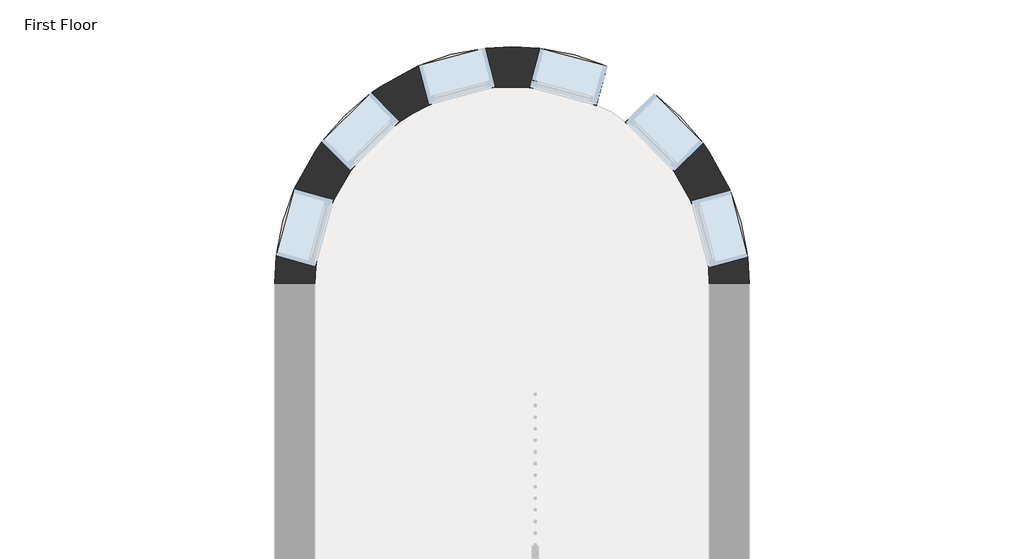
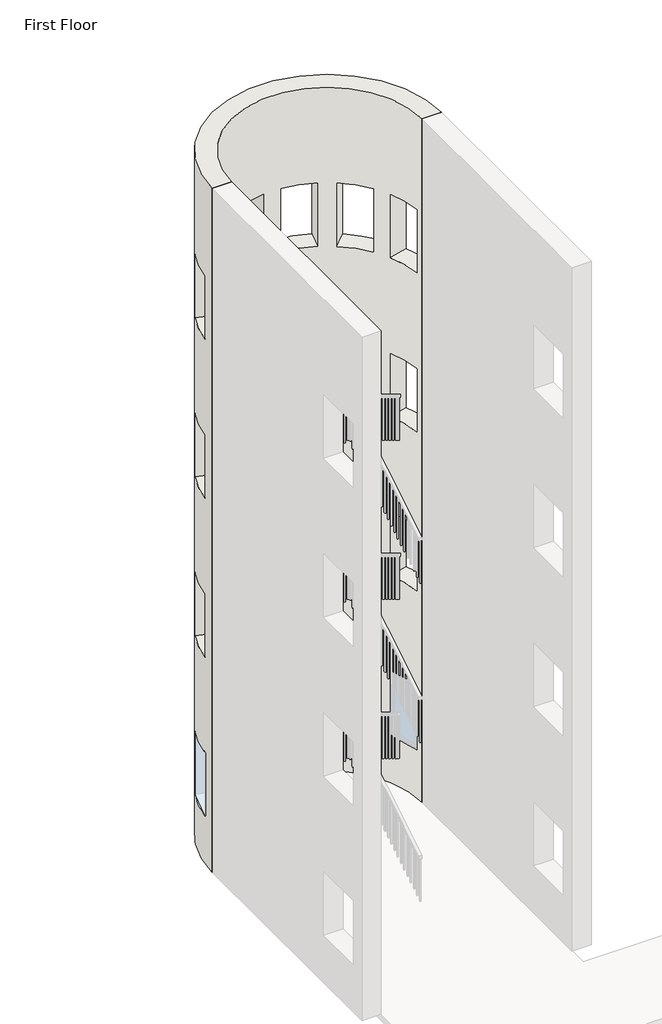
# One storey, part 2 of 5: 1 wall.
"""IFC4 building model written with IfcOpenShell, lengths in millimetres."""

from ifc_helpers import new_model, si_unit, frame, origin, place, context, project, spatial, polyline, circle_curve, element, save
from ifc_brep_helpers import plane_surface, cylinder_surface, revolved_surface, advanced_brep

model = new_model("IFC4")

# Units and contexts
model_context = context("Model", 3, world=origin())
ifc_project = project(units=[si_unit("LENGTHUNIT", "METRE", prefix="MILLI")], contexts=[model_context])

# Site, building, storey
site = spatial("IfcSite", under=ifc_project)
building = spatial("IfcBuilding", under=site)
storey = spatial("IfcBuildingStorey", under=building, Name="First Floor", Elevation=0.0)

# Wall
placement = place(None, origin())
element("IfcWall", 1, ObjectType="Exterior - Brick on Mtl. Stud", at=placement, inside=storey, context=model_context, shape_type="AdvancedBrep", body=[
    advanced_brep(
    [(-4164.4024687, 9592.7758812, 13106.4), (-8326.8274687, 9592.7758812, 13106.4), (-7974.4024687, 9592.7758812, 13106.4), (-4516.8274687, 9592.7758812, 13106.4), (-8326.8274687, 9592.7758812, 0.0), (-4164.4024687, 9592.7758812, 0.0), (-4516.8274687, 9592.7758812, 0.0), (-7974.4024687, 9592.7758812, 0.0), (-8312.3878938, 9837.5107303, 914.4), (-8152.818084, 10425.8555575, 914.4), (-8152.818084, 10425.8555575, 2133.6), (-8312.3878938, 9837.5107303, 2133.6), (-7913.1254012, 10838.1089402, 2133.6), (-7913.1254012, 10838.1089402, 914.4), (-7480.7614786, 11267.8456019, 914.4), (-7480.7614786, 11267.8456019, 2133.6), (-7067.0548348, 11505.0211627, 2133.6), (-7067.0548348, 11505.0211627, 914.4), (-6477.7483633, 11661.0020674, 914.4), (-6477.7483633, 11661.0020674, 2133.6), (-6000.8801197, 11659.5488063, 2133.6), (-6000.8801197, 11659.5488063, 914.4), (-5412.5352924, 11499.9789965, 914.4), (-5412.5352924, 11499.9789965, 2133.6), (-5000.2819097, 11260.2863136, 2133.6), (-5000.2819097, 11260.2863136, 914.4), (-4570.545248, 10827.922391, 914.4), (-4570.545248, 10827.922391, 2133.6), (-4333.3696872, 10414.2157472, 2133.6), (-4333.3696872, 10414.2157472, 914.4), (-4177.3887825, 9824.9092757, 914.4), (-4177.3887825, 9824.9092757, 2133.6), (-8312.3878938, 9837.5107303, 11277.6), (-8312.3878938, 9837.5107303, 10058.4), (-8152.818084, 10425.8555575, 10058.4), (-8152.818084, 10425.8555575, 11277.6), (-7913.1254012, 10838.1089402, 11277.6), (-7913.1254012, 10838.1089402, 10058.4), (-7480.7614786, 11267.8456019, 10058.4), (-7480.7614786, 11267.8456019, 11277.6), (-7067.0548348, 11505.0211627, 11277.6), (-7067.0548348, 11505.0211627, 10058.4), (-6477.7483633, 11661.0020674, 10058.4), (-6477.7483633, 11661.0020674, 11277.6), (-6000.8801197, 11659.5488063, 11277.6), (-6000.8801197, 11659.5488063, 10058.4), (-5412.5352924, 11499.9789965, 10058.4), (-5412.5352924, 11499.9789965, 11277.6), (-5000.2819097, 11260.2863136, 11277.6), (-5000.2819097, 11260.2863136, 10058.4), (-4570.545248, 10827.922391, 10058.4), (-4570.545248, 10827.922391, 11277.6), (-4333.3696872, 10414.2157472, 11277.6), (-4333.3696872, 10414.2157472, 10058.4), (-4177.3887825, 9824.9092757, 10058.4), (-4177.3887825, 9824.9092757, 11277.6), (-8312.3878938, 9837.5107303, 5181.6), (-8312.3878938, 9837.5107303, 3962.4), (-8152.818084, 10425.8555575, 3962.4), (-8152.818084, 10425.8555575, 5181.6), (-7913.1254012, 10838.1089402, 5181.6), (-7913.1254012, 10838.1089402, 3962.4), (-7480.7614786, 11267.8456019, 3962.4), (-7480.7614786, 11267.8456019, 5181.6), (-7067.0548348, 11505.0211627, 5181.6), (-7067.0548348, 11505.0211627, 3962.4), (-6477.7483633, 11661.0020674, 3962.4), (-6477.7483633, 11661.0020674, 5181.6), (-6000.8801197, 11659.5488063, 5181.6), (-6000.8801197, 11659.5488063, 3962.4), (-5412.5352924, 11499.9789965, 3962.4), (-5412.5352924, 11499.9789965, 5181.6), (-5000.2819097, 11260.2863136, 5181.6), (-5000.2819097, 11260.2863136, 3962.4), (-4570.545248, 10827.922391, 3962.4), (-4570.545248, 10827.922391, 5181.6), (-4333.3696872, 10414.2157472, 5181.6), (-4333.3696872, 10414.2157472, 3962.4), (-4177.3887825, 9824.9092757, 3962.4), (-4177.3887825, 9824.9092757, 5181.6), (-8312.3878938, 9837.5107303, 8229.6), (-8312.3878938, 9837.5107303, 7010.4), (-8152.818084, 10425.8555575, 7010.4), (-8152.818084, 10425.8555575, 8229.6), (-7913.1254012, 10838.1089402, 8229.6), (-7913.1254012, 10838.1089402, 7010.4), (-7480.7614786, 11267.8456019, 7010.4), (-7480.7614786, 11267.8456019, 8229.6), (-7067.0548348, 11505.0211627, 8229.6), (-7067.0548348, 11505.0211627, 7010.4), (-6477.7483633, 11661.0020674, 7010.4), (-6477.7483633, 11661.0020674, 8229.6), (-6000.8801197, 11659.5488063, 8229.6), (-6000.8801197, 11659.5488063, 7010.4), (-5412.5352924, 11499.9789965, 7010.4), (-5412.5352924, 11499.9789965, 8229.6), (-5000.2819097, 11260.2863136, 8229.6), (-5000.2819097, 11260.2863136, 7010.4), (-4570.545248, 10827.922391, 7010.4), (-4570.545248, 10827.922391, 8229.6), (-4333.3696872, 10414.2157472, 8229.6), (-4333.3696872, 10414.2157472, 7010.4), (-4177.3887825, 9824.9092757, 7010.4), (-4177.3887825, 9824.9092757, 8229.6), (-7808.2019473, 10332.3893982, 914.4), (-7967.7717571, 9744.0445709, 914.4), (-7967.7717571, 9744.0445709, 2133.6), (-7808.2019473, 10332.3893982, 2133.6), (-7661.4121519, 10584.8568034, 914.4), (-7661.4121519, 10584.8568034, 2133.6), (-7229.0482293, 11014.5934652, 2133.6), (-7229.0482293, 11014.5934652, 914.4), (-6975.6908348, 11159.8417541, 2133.6), (-6386.3843633, 11315.8226588, 2133.6), (-6386.3843633, 11315.8226588, 914.4), (-6975.6908348, 11159.8417541, 914.4), (-6094.346279, 11314.9326695, 2133.6), (-5506.0014517, 11155.3628598, 2133.6), (-5506.0014517, 11155.3628598, 914.4), (-6094.346279, 11314.9326695, 914.4), (-5253.5340465, 11008.5730643, 2133.6), (-4823.7973847, 10576.2091417, 2133.6), (-4823.7973847, 10576.2091417, 914.4), (-5253.5340465, 11008.5730643, 914.4), (-4678.5490959, 10322.8517473, 2133.6), (-4522.5681912, 9733.5452757, 2133.6), (-4522.5681912, 9733.5452757, 914.4), (-4678.5490959, 10322.8517473, 914.4), (-7967.7717571, 9744.0445709, 11277.6), (-7808.2019473, 10332.3893982, 11277.6), (-7808.2019473, 10332.3893982, 10058.4), (-7967.7717571, 9744.0445709, 10058.4), (-7661.4121519, 10584.8568034, 11277.6), (-7229.0482293, 11014.5934652, 11277.6), (-7229.0482293, 11014.5934652, 10058.4), (-7661.4121519, 10584.8568034, 10058.4), (-6975.6908348, 11159.8417541, 11277.6), (-6386.3843633, 11315.8226588, 11277.6), (-6386.3843633, 11315.8226588, 10058.4), (-6975.6908348, 11159.8417541, 10058.4), (-6094.346279, 11314.9326695, 11277.6), (-5506.0014517, 11155.3628598, 11277.6), (-5506.0014517, 11155.3628598, 10058.4), (-6094.346279, 11314.9326695, 10058.4), (-5253.5340465, 11008.5730643, 11277.6), (-4823.7973847, 10576.2091417, 11277.6), (-4823.7973847, 10576.2091417, 10058.4), (-5253.5340465, 11008.5730643, 10058.4), (-4678.5490959, 10322.8517473, 11277.6), (-4522.5681912, 9733.5452757, 11277.6), (-4522.5681912, 9733.5452757, 10058.4), (-4678.5490959, 10322.8517473, 10058.4), (-7967.7717571, 9744.0445709, 5181.6), (-7808.2019473, 10332.3893982, 5181.6), (-7808.2019473, 10332.3893982, 3962.4), (-7967.7717571, 9744.0445709, 3962.4), (-7661.4121519, 10584.8568034, 5181.6), (-7229.0482293, 11014.5934652, 5181.6), (-7229.0482293, 11014.5934652, 3962.4), (-7661.4121519, 10584.8568034, 3962.4), (-6975.6908348, 11159.8417541, 5181.6), (-6386.3843633, 11315.8226588, 5181.6), (-6386.3843633, 11315.8226588, 3962.4), (-6975.6908348, 11159.8417541, 3962.4), (-6094.346279, 11314.9326695, 5181.6), (-5506.0014517, 11155.3628598, 5181.6), (-5506.0014517, 11155.3628598, 3962.4), (-6094.346279, 11314.9326695, 3962.4), (-5253.5340465, 11008.5730643, 5181.6), (-4823.7973847, 10576.2091417, 5181.6), (-4823.7973847, 10576.2091417, 3962.4), (-5253.5340465, 11008.5730643, 3962.4), (-4678.5490959, 10322.8517473, 5181.6), (-4522.5681912, 9733.5452757, 5181.6), (-4522.5681912, 9733.5452757, 3962.4), (-4678.5490959, 10322.8517473, 3962.4), (-7967.7717571, 9744.0445709, 8229.6), (-7808.2019473, 10332.3893982, 8229.6), (-7808.2019473, 10332.3893982, 7010.4), (-7967.7717571, 9744.0445709, 7010.4), (-7661.4121519, 10584.8568034, 8229.6), (-7229.0482293, 11014.5934652, 8229.6), (-7229.0482293, 11014.5934652, 7010.4), (-7661.4121519, 10584.8568034, 7010.4), (-6975.6908348, 11159.8417541, 8229.6), (-6386.3843633, 11315.8226588, 8229.6), (-6386.3843633, 11315.8226588, 7010.4), (-6975.6908348, 11159.8417541, 7010.4), (-6094.346279, 11314.9326695, 8229.6), (-5506.0014517, 11155.3628598, 8229.6), (-5506.0014517, 11155.3628598, 7010.4), (-6094.346279, 11314.9326695, 7010.4), (-5253.5340465, 11008.5730643, 8229.6), (-4823.7973847, 10576.2091417, 8229.6), (-4823.7973847, 10576.2091417, 7010.4), (-5253.5340465, 11008.5730643, 7010.4), (-4678.5490959, 10322.8517473, 8229.6), (-4522.5681912, 9733.5452757, 8229.6), (-4522.5681912, 9733.5452757, 7010.4), (-4678.5490959, 10322.8517473, 7010.4)],
    [
        (0, 1, circle_curve(frame((-6245.6149687, 9592.7758812, 13106.4), z_axis=(0.0, 0.0, 1.0), x_axis=(1.0, 0.0, 0.0)), 2081.2125)),
        (1, 2),
        (2, 3, circle_curve(frame((-6245.6149687, 9592.7758812, 13106.4), z_axis=(0.0, 0.0, -1.0), x_axis=(1.0, 0.0, 0.0)), 1728.7875)),
        (3, 0),
        (4, 5, circle_curve(frame((-6245.6149687, 9592.7758812, 0.0), z_axis=(0.0, 0.0, -1.0), x_axis=(1.0, 0.0, 0.0)), 2081.2125)),
        (5, 6),
        (6, 7, circle_curve(frame((-6245.6149687, 9592.7758812, 0.0), z_axis=(0.0, 0.0, 1.0), x_axis=(1.0, 0.0, 0.0)), 1728.7875)),
        (7, 4),
        (0, 5),
        (4, 1),
        (8, 9, circle_curve(frame((-6245.6149687, 9592.7758812, 914.4), z_axis=(0.0, 0.0, -1.0), x_axis=(1.0, 0.0, 0.0)), 2081.2125)),
        (9, 10),
        (10, 11, circle_curve(frame((-6245.6149687, 9592.7758812, 2133.6), z_axis=(0.0, 0.0, 1.0), x_axis=(1.0, 0.0, 0.0)), 2081.2125)),
        (11, 8),
        (12, 13),
        (13, 14, circle_curve(frame((-6245.6149687, 9592.7758812, 914.4), z_axis=(0.0, 0.0, -1.0), x_axis=(1.0, 0.0, 0.0)), 2081.2125)),
        (14, 15),
        (15, 12, circle_curve(frame((-6245.6149687, 9592.7758812, 2133.6), z_axis=(0.0, 0.0, 1.0), x_axis=(1.0, 0.0, 0.0)), 2081.2125)),
        (16, 17),
        (17, 18, circle_curve(frame((-6245.6149687, 9592.7758812, 914.4), z_axis=(0.0, 0.0, -1.0), x_axis=(1.0, 0.0, 0.0)), 2081.2125)),
        (18, 19),
        (19, 16, circle_curve(frame((-6245.6149687, 9592.7758812, 2133.6), z_axis=(0.0, 0.0, 1.0), x_axis=(1.0, 0.0, 0.0)), 2081.2125)),
        (20, 21),
        (21, 22, circle_curve(frame((-6245.6149687, 9592.7758812, 914.4), z_axis=(0.0, 0.0, -1.0), x_axis=(1.0, 0.0, 0.0)), 2081.2125)),
        (22, 23),
        (23, 20, circle_curve(frame((-6245.6149687, 9592.7758812, 2133.6), z_axis=(0.0, 0.0, 1.0), x_axis=(1.0, 0.0, 0.0)), 2081.2125)),
        (24, 25),
        (25, 26, circle_curve(frame((-6245.6149687, 9592.7758812, 914.4), z_axis=(0.0, 0.0, -1.0), x_axis=(1.0, 0.0, 0.0)), 2081.2125)),
        (26, 27),
        (27, 24, circle_curve(frame((-6245.6149687, 9592.7758812, 2133.6), z_axis=(0.0, 0.0, 1.0), x_axis=(1.0, 0.0, 0.0)), 2081.2125)),
        (28, 29),
        (29, 30, circle_curve(frame((-6245.6149687, 9592.7758812, 914.4), z_axis=(0.0, 0.0, -1.0), x_axis=(1.0, 0.0, 0.0)), 2081.2125)),
        (30, 31),
        (31, 28, circle_curve(frame((-6245.6149687, 9592.7758812, 2133.6), z_axis=(0.0, 0.0, 1.0), x_axis=(1.0, 0.0, 0.0)), 2081.2125)),
        (32, 33),
        (33, 34, circle_curve(frame((-6245.6149687, 9592.7758812, 10058.4), z_axis=(0.0, 0.0, -1.0), x_axis=(1.0, 0.0, 0.0)), 2081.2125)),
        (34, 35),
        (35, 32, circle_curve(frame((-6245.6149687, 9592.7758812, 11277.6), z_axis=(0.0, 0.0, 1.0), x_axis=(1.0, 0.0, 0.0)), 2081.2125)),
        (36, 37),
        (37, 38, circle_curve(frame((-6245.6149687, 9592.7758812, 10058.4), z_axis=(0.0, 0.0, -1.0), x_axis=(1.0, 0.0, 0.0)), 2081.2125)),
        (38, 39),
        (39, 36, circle_curve(frame((-6245.6149687, 9592.7758812, 11277.6), z_axis=(0.0, 0.0, 1.0), x_axis=(1.0, 0.0, 0.0)), 2081.2125)),
        (40, 41),
        (41, 42, circle_curve(frame((-6245.6149687, 9592.7758812, 10058.4), z_axis=(0.0, 0.0, -1.0), x_axis=(1.0, 0.0, 0.0)), 2081.2125)),
        (42, 43),
        (43, 40, circle_curve(frame((-6245.6149687, 9592.7758812, 11277.6), z_axis=(0.0, 0.0, 1.0), x_axis=(1.0, 0.0, 0.0)), 2081.2125)),
        (44, 45),
        (45, 46, circle_curve(frame((-6245.6149687, 9592.7758812, 10058.4), z_axis=(0.0, 0.0, -1.0), x_axis=(1.0, 0.0, 0.0)), 2081.2125)),
        (46, 47),
        (47, 44, circle_curve(frame((-6245.6149687, 9592.7758812, 11277.6), z_axis=(0.0, 0.0, 1.0), x_axis=(1.0, 0.0, 0.0)), 2081.2125)),
        (48, 49),
        (49, 50, circle_curve(frame((-6245.6149687, 9592.7758812, 10058.4), z_axis=(0.0, 0.0, -1.0), x_axis=(1.0, 0.0, 0.0)), 2081.2125)),
        (50, 51),
        (51, 48, circle_curve(frame((-6245.6149687, 9592.7758812, 11277.6), z_axis=(0.0, 0.0, 1.0), x_axis=(1.0, 0.0, 0.0)), 2081.2125)),
        (52, 53),
        (53, 54, circle_curve(frame((-6245.6149687, 9592.7758812, 10058.4), z_axis=(0.0, 0.0, -1.0), x_axis=(1.0, 0.0, 0.0)), 2081.2125)),
        (54, 55),
        (55, 52, circle_curve(frame((-6245.6149687, 9592.7758812, 11277.6), z_axis=(0.0, 0.0, 1.0), x_axis=(1.0, 0.0, 0.0)), 2081.2125)),
        (56, 57),
        (57, 58, circle_curve(frame((-6245.6149687, 9592.7758812, 3962.4), z_axis=(0.0, 0.0, -1.0), x_axis=(1.0, 0.0, 0.0)), 2081.2125)),
        (58, 59),
        (59, 56, circle_curve(frame((-6245.6149687, 9592.7758812, 5181.6), z_axis=(0.0, 0.0, 1.0), x_axis=(1.0, 0.0, 0.0)), 2081.2125)),
        (60, 61),
        (61, 62, circle_curve(frame((-6245.6149687, 9592.7758812, 3962.4), z_axis=(0.0, 0.0, -1.0), x_axis=(1.0, 0.0, 0.0)), 2081.2125)),
        (62, 63),
        (63, 60, circle_curve(frame((-6245.6149687, 9592.7758812, 5181.6), z_axis=(0.0, 0.0, 1.0), x_axis=(1.0, 0.0, 0.0)), 2081.2125)),
        (64, 65),
        (65, 66, circle_curve(frame((-6245.6149687, 9592.7758812, 3962.4), z_axis=(0.0, 0.0, -1.0), x_axis=(1.0, 0.0, 0.0)), 2081.2125)),
        (66, 67),
        (67, 64, circle_curve(frame((-6245.6149687, 9592.7758812, 5181.6), z_axis=(0.0, 0.0, 1.0), x_axis=(1.0, 0.0, 0.0)), 2081.2125)),
        (68, 69),
        (69, 70, circle_curve(frame((-6245.6149687, 9592.7758812, 3962.4), z_axis=(0.0, 0.0, -1.0), x_axis=(1.0, 0.0, 0.0)), 2081.2125)),
        (70, 71),
        (71, 68, circle_curve(frame((-6245.6149687, 9592.7758812, 5181.6), z_axis=(0.0, 0.0, 1.0), x_axis=(1.0, 0.0, 0.0)), 2081.2125)),
        (72, 73),
        (73, 74, circle_curve(frame((-6245.6149687, 9592.7758812, 3962.4), z_axis=(0.0, 0.0, -1.0), x_axis=(1.0, 0.0, 0.0)), 2081.2125)),
        (74, 75),
        (75, 72, circle_curve(frame((-6245.6149687, 9592.7758812, 5181.6), z_axis=(0.0, 0.0, 1.0), x_axis=(1.0, 0.0, 0.0)), 2081.2125)),
        (76, 77),
        (77, 78, circle_curve(frame((-6245.6149687, 9592.7758812, 3962.4), z_axis=(0.0, 0.0, -1.0), x_axis=(1.0, 0.0, 0.0)), 2081.2125)),
        (78, 79),
        (79, 76, circle_curve(frame((-6245.6149687, 9592.7758812, 5181.6), z_axis=(0.0, 0.0, 1.0), x_axis=(1.0, 0.0, 0.0)), 2081.2125)),
        (80, 81),
        (81, 82, circle_curve(frame((-6245.6149687, 9592.7758812, 7010.4), z_axis=(0.0, 0.0, -1.0), x_axis=(1.0, 0.0, 0.0)), 2081.2125)),
        (82, 83),
        (83, 80, circle_curve(frame((-6245.6149687, 9592.7758812, 8229.6), z_axis=(0.0, 0.0, 1.0), x_axis=(1.0, 0.0, 0.0)), 2081.2125)),
        (84, 85),
        (85, 86, circle_curve(frame((-6245.6149687, 9592.7758812, 7010.4), z_axis=(0.0, 0.0, -1.0), x_axis=(1.0, 0.0, 0.0)), 2081.2125)),
        (86, 87),
        (87, 84, circle_curve(frame((-6245.6149687, 9592.7758812, 8229.6), z_axis=(0.0, 0.0, 1.0), x_axis=(1.0, 0.0, 0.0)), 2081.2125)),
        (88, 89),
        (89, 90, circle_curve(frame((-6245.6149687, 9592.7758812, 7010.4), z_axis=(0.0, 0.0, -1.0), x_axis=(1.0, 0.0, 0.0)), 2081.2125)),
        (90, 91),
        (91, 88, circle_curve(frame((-6245.6149687, 9592.7758812, 8229.6), z_axis=(0.0, 0.0, 1.0), x_axis=(1.0, 0.0, 0.0)), 2081.2125)),
        (92, 93),
        (93, 94, circle_curve(frame((-6245.6149687, 9592.7758812, 7010.4), z_axis=(0.0, 0.0, -1.0), x_axis=(1.0, 0.0, 0.0)), 2081.2125)),
        (94, 95),
        (95, 92, circle_curve(frame((-6245.6149687, 9592.7758812, 8229.6), z_axis=(0.0, 0.0, 1.0), x_axis=(1.0, 0.0, 0.0)), 2081.2125)),
        (96, 97),
        (97, 98, circle_curve(frame((-6245.6149687, 9592.7758812, 7010.4), z_axis=(0.0, 0.0, -1.0), x_axis=(1.0, 0.0, 0.0)), 2081.2125)),
        (98, 99),
        (99, 96, circle_curve(frame((-6245.6149687, 9592.7758812, 8229.6), z_axis=(0.0, 0.0, 1.0), x_axis=(1.0, 0.0, 0.0)), 2081.2125)),
        (100, 101),
        (101, 102, circle_curve(frame((-6245.6149687, 9592.7758812, 7010.4), z_axis=(0.0, 0.0, -1.0), x_axis=(1.0, 0.0, 0.0)), 2081.2125)),
        (102, 103),
        (103, 100, circle_curve(frame((-6245.6149687, 9592.7758812, 8229.6), z_axis=(0.0, 0.0, 1.0), x_axis=(1.0, 0.0, 0.0)), 2081.2125)),
        (7, 2),
        (6, 3),
        (104, 105, circle_curve(frame((-6245.6149687, 9592.7758812, 914.4), z_axis=(0.0, 0.0, 1.0), x_axis=(1.0, 0.0, 0.0)), 1728.7875)),
        (105, 106),
        (106, 107, circle_curve(frame((-6245.6149687, 9592.7758812, 2133.6), z_axis=(0.0, 0.0, -1.0), x_axis=(1.0, 0.0, 0.0)), 1728.7875)),
        (107, 104),
        (108, 109),
        (109, 110, circle_curve(frame((-6245.6149687, 9592.7758812, 2133.6), z_axis=(0.0, 0.0, -1.0), x_axis=(1.0, 0.0, 0.0)), 1728.7875)),
        (110, 111),
        (111, 108, circle_curve(frame((-6245.6149687, 9592.7758812, 914.4), z_axis=(0.0, 0.0, 1.0), x_axis=(1.0, 0.0, 0.0)), 1728.7875)),
        (112, 113, circle_curve(frame((-6245.6149687, 9592.7758812, 2133.6), z_axis=(0.0, 0.0, -1.0), x_axis=(1.0, 0.0, 0.0)), 1728.7875)),
        (113, 114),
        (114, 115, circle_curve(frame((-6245.6149687, 9592.7758812, 914.4), z_axis=(0.0, 0.0, 1.0), x_axis=(1.0, 0.0, 0.0)), 1728.7875)),
        (115, 112),
        (116, 117, circle_curve(frame((-6245.6149687, 9592.7758812, 2133.6), z_axis=(0.0, 0.0, -1.0), x_axis=(1.0, 0.0, 0.0)), 1728.7875)),
        (117, 118),
        (118, 119, circle_curve(frame((-6245.6149687, 9592.7758812, 914.4), z_axis=(0.0, 0.0, 1.0), x_axis=(1.0, 0.0, 0.0)), 1728.7875)),
        (119, 116),
        (120, 121, circle_curve(frame((-6245.6149687, 9592.7758812, 2133.6), z_axis=(0.0, 0.0, -1.0), x_axis=(1.0, 0.0, 0.0)), 1728.7875)),
        (121, 122),
        (122, 123, circle_curve(frame((-6245.6149687, 9592.7758812, 914.4), z_axis=(0.0, 0.0, 1.0), x_axis=(1.0, 0.0, 0.0)), 1728.7875)),
        (123, 120),
        (124, 125, circle_curve(frame((-6245.6149687, 9592.7758812, 2133.6), z_axis=(0.0, 0.0, -1.0), x_axis=(1.0, 0.0, 0.0)), 1728.7875)),
        (125, 126),
        (126, 127, circle_curve(frame((-6245.6149687, 9592.7758812, 914.4), z_axis=(0.0, 0.0, 1.0), x_axis=(1.0, 0.0, 0.0)), 1728.7875)),
        (127, 124),
        (128, 129, circle_curve(frame((-6245.6149687, 9592.7758812, 11277.6), z_axis=(0.0, 0.0, -1.0), x_axis=(1.0, 0.0, 0.0)), 1728.7875)),
        (129, 130),
        (130, 131, circle_curve(frame((-6245.6149687, 9592.7758812, 10058.4), z_axis=(0.0, 0.0, 1.0), x_axis=(1.0, 0.0, 0.0)), 1728.7875)),
        (131, 128),
        (132, 133, circle_curve(frame((-6245.6149687, 9592.7758812, 11277.6), z_axis=(0.0, 0.0, -1.0), x_axis=(1.0, 0.0, 0.0)), 1728.7875)),
        (133, 134),
        (134, 135, circle_curve(frame((-6245.6149687, 9592.7758812, 10058.4), z_axis=(0.0, 0.0, 1.0), x_axis=(1.0, 0.0, 0.0)), 1728.7875)),
        (135, 132),
        (136, 137, circle_curve(frame((-6245.6149687, 9592.7758812, 11277.6), z_axis=(0.0, 0.0, -1.0), x_axis=(1.0, 0.0, 0.0)), 1728.7875)),
        (137, 138),
        (138, 139, circle_curve(frame((-6245.6149687, 9592.7758812, 10058.4), z_axis=(0.0, 0.0, 1.0), x_axis=(1.0, 0.0, 0.0)), 1728.7875)),
        (139, 136),
        (140, 141, circle_curve(frame((-6245.6149687, 9592.7758812, 11277.6), z_axis=(0.0, 0.0, -1.0), x_axis=(1.0, 0.0, 0.0)), 1728.7875)),
        (141, 142),
        (142, 143, circle_curve(frame((-6245.6149687, 9592.7758812, 10058.4), z_axis=(0.0, 0.0, 1.0), x_axis=(1.0, 0.0, 0.0)), 1728.7875)),
        (143, 140),
        (144, 145, circle_curve(frame((-6245.6149687, 9592.7758812, 11277.6), z_axis=(0.0, 0.0, -1.0), x_axis=(1.0, 0.0, 0.0)), 1728.7875)),
        (145, 146),
        (146, 147, circle_curve(frame((-6245.6149687, 9592.7758812, 10058.4), z_axis=(0.0, 0.0, 1.0), x_axis=(1.0, 0.0, 0.0)), 1728.7875)),
        (147, 144),
        (148, 149, circle_curve(frame((-6245.6149687, 9592.7758812, 11277.6), z_axis=(0.0, 0.0, -1.0), x_axis=(1.0, 0.0, 0.0)), 1728.7875)),
        (149, 150),
        (150, 151, circle_curve(frame((-6245.6149687, 9592.7758812, 10058.4), z_axis=(0.0, 0.0, 1.0), x_axis=(1.0, 0.0, 0.0)), 1728.7875)),
        (151, 148),
        (152, 153, circle_curve(frame((-6245.6149687, 9592.7758812, 5181.6), z_axis=(0.0, 0.0, -1.0), x_axis=(1.0, 0.0, 0.0)), 1728.7875)),
        (153, 154),
        (154, 155, circle_curve(frame((-6245.6149687, 9592.7758812, 3962.4), z_axis=(0.0, 0.0, 1.0), x_axis=(1.0, 0.0, 0.0)), 1728.7875)),
        (155, 152),
        (156, 157, circle_curve(frame((-6245.6149687, 9592.7758812, 5181.6), z_axis=(0.0, 0.0, -1.0), x_axis=(1.0, 0.0, 0.0)), 1728.7875)),
        (157, 158),
        (158, 159, circle_curve(frame((-6245.6149687, 9592.7758812, 3962.4), z_axis=(0.0, 0.0, 1.0), x_axis=(1.0, 0.0, 0.0)), 1728.7875)),
        (159, 156),
        (160, 161, circle_curve(frame((-6245.6149687, 9592.7758812, 5181.6), z_axis=(0.0, 0.0, -1.0), x_axis=(1.0, 0.0, 0.0)), 1728.7875)),
        (161, 162),
        (162, 163, circle_curve(frame((-6245.6149687, 9592.7758812, 3962.4), z_axis=(0.0, 0.0, 1.0), x_axis=(1.0, 0.0, 0.0)), 1728.7875)),
        (163, 160),
        (164, 165, circle_curve(frame((-6245.6149687, 9592.7758812, 5181.6), z_axis=(0.0, 0.0, -1.0), x_axis=(1.0, 0.0, 0.0)), 1728.7875)),
        (165, 166),
        (166, 167, circle_curve(frame((-6245.6149687, 9592.7758812, 3962.4), z_axis=(0.0, 0.0, 1.0), x_axis=(1.0, 0.0, 0.0)), 1728.7875)),
        (167, 164),
        (168, 169, circle_curve(frame((-6245.6149687, 9592.7758812, 5181.6), z_axis=(0.0, 0.0, -1.0), x_axis=(1.0, 0.0, 0.0)), 1728.7875)),
        (169, 170),
        (170, 171, circle_curve(frame((-6245.6149687, 9592.7758812, 3962.4), z_axis=(0.0, 0.0, 1.0), x_axis=(1.0, 0.0, 0.0)), 1728.7875)),
        (171, 168),
        (172, 173, circle_curve(frame((-6245.6149687, 9592.7758812, 5181.6), z_axis=(0.0, 0.0, -1.0), x_axis=(1.0, 0.0, 0.0)), 1728.7875)),
        (173, 174),
        (174, 175, circle_curve(frame((-6245.6149687, 9592.7758812, 3962.4), z_axis=(0.0, 0.0, 1.0), x_axis=(1.0, 0.0, 0.0)), 1728.7875)),
        (175, 172),
        (176, 177, circle_curve(frame((-6245.6149687, 9592.7758812, 8229.6), z_axis=(0.0, 0.0, -1.0), x_axis=(1.0, 0.0, 0.0)), 1728.7875)),
        (177, 178),
        (178, 179, circle_curve(frame((-6245.6149687, 9592.7758812, 7010.4), z_axis=(0.0, 0.0, 1.0), x_axis=(1.0, 0.0, 0.0)), 1728.7875)),
        (179, 176),
        (180, 181, circle_curve(frame((-6245.6149687, 9592.7758812, 8229.6), z_axis=(0.0, 0.0, -1.0), x_axis=(1.0, 0.0, 0.0)), 1728.7875)),
        (181, 182),
        (182, 183, circle_curve(frame((-6245.6149687, 9592.7758812, 7010.4), z_axis=(0.0, 0.0, 1.0), x_axis=(1.0, 0.0, 0.0)), 1728.7875)),
        (183, 180),
        (184, 185, circle_curve(frame((-6245.6149687, 9592.7758812, 8229.6), z_axis=(0.0, 0.0, -1.0), x_axis=(1.0, 0.0, 0.0)), 1728.7875)),
        (185, 186),
        (186, 187, circle_curve(frame((-6245.6149687, 9592.7758812, 7010.4), z_axis=(0.0, 0.0, 1.0), x_axis=(1.0, 0.0, 0.0)), 1728.7875)),
        (187, 184),
        (188, 189, circle_curve(frame((-6245.6149687, 9592.7758812, 8229.6), z_axis=(0.0, 0.0, -1.0), x_axis=(1.0, 0.0, 0.0)), 1728.7875)),
        (189, 190),
        (190, 191, circle_curve(frame((-6245.6149687, 9592.7758812, 7010.4), z_axis=(0.0, 0.0, 1.0), x_axis=(1.0, 0.0, 0.0)), 1728.7875)),
        (191, 188),
        (192, 193, circle_curve(frame((-6245.6149687, 9592.7758812, 8229.6), z_axis=(0.0, 0.0, -1.0), x_axis=(1.0, 0.0, 0.0)), 1728.7875)),
        (193, 194),
        (194, 195, circle_curve(frame((-6245.6149687, 9592.7758812, 7010.4), z_axis=(0.0, 0.0, 1.0), x_axis=(1.0, 0.0, 0.0)), 1728.7875)),
        (195, 192),
        (196, 197, circle_curve(frame((-6245.6149687, 9592.7758812, 8229.6), z_axis=(0.0, 0.0, -1.0), x_axis=(1.0, 0.0, 0.0)), 1728.7875)),
        (197, 198),
        (198, 199, circle_curve(frame((-6245.6149687, 9592.7758812, 7010.4), z_axis=(0.0, 0.0, 1.0), x_axis=(1.0, 0.0, 0.0)), 1728.7875)),
        (199, 196),
        (105, 8),
        (11, 106),
        (104, 9),
        (107, 10),
        (12, 109),
        (108, 13),
        (111, 14),
        (110, 15),
        (16, 112),
        (115, 17),
        (114, 18),
        (113, 19),
        (20, 116),
        (119, 21),
        (118, 22),
        (117, 23),
        (24, 120),
        (123, 25),
        (122, 26),
        (121, 27),
        (28, 124),
        (127, 29),
        (126, 30),
        (125, 31),
        (32, 128),
        (131, 33),
        (130, 34),
        (129, 35),
        (36, 132),
        (135, 37),
        (134, 38),
        (133, 39),
        (40, 136),
        (139, 41),
        (138, 42),
        (137, 43),
        (44, 140),
        (143, 45),
        (142, 46),
        (141, 47),
        (48, 144),
        (147, 49),
        (146, 50),
        (145, 51),
        (52, 148),
        (151, 53),
        (150, 54),
        (149, 55),
        (56, 152),
        (155, 57),
        (154, 58),
        (153, 59),
        (60, 156),
        (159, 61),
        (158, 62),
        (157, 63),
        (64, 160),
        (163, 65),
        (162, 66),
        (161, 67),
        (68, 164),
        (167, 69),
        (166, 70),
        (165, 71),
        (72, 168),
        (171, 73),
        (170, 74),
        (169, 75),
        (76, 172),
        (175, 77),
        (174, 78),
        (173, 79),
        (80, 176),
        (179, 81),
        (178, 82),
        (177, 83),
        (84, 180),
        (183, 85),
        (182, 86),
        (181, 87),
        (88, 184),
        (187, 89),
        (186, 90),
        (185, 91),
        (92, 188),
        (191, 93),
        (190, 94),
        (189, 95),
        (96, 192),
        (195, 97),
        (194, 98),
        (193, 99),
        (100, 196),
        (199, 101),
        (198, 102),
        (197, 103),
    ],
    [
        plane_surface(frame((-4164.4024687, 9592.7758812, 13106.4), z_axis=(0.0, 0.0, 1.0), x_axis=(0.0, 1.0, 0.0))),
        plane_surface(frame((-4164.4024687, 9592.7758812, 0.0), z_axis=(0.0, 0.0, -1.0), x_axis=(0.0, -1.0, 0.0))),
        cylinder_surface(frame((-6245.6149687, 9592.7758812, 0.0), z_axis=(0.0, 0.0, 1.0), x_axis=(1.0, 0.0, 0.0)), 2081.2125),
        plane_surface(frame((-8326.8274687, 9592.7758812, 13106.4), z_axis=(0.0, -1.0, 0.0), x_axis=(0.0, 0.0, -1.0))),
        revolved_surface(polyline([(-4516.827468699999, 9592.7758812, 0.0), (-4516.827468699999, 9592.7758812, 13106.4)]), (-6245.6149687, 9592.7758812, 0.0), (0.0, 0.0, -1.0)),
        plane_surface(frame((-4516.8274687, 9592.7758812, 13106.4), z_axis=(0.0, -1.0, 0.0), x_axis=(0.0, 0.0, -1.0))),
        plane_surface(frame((-6841.5258256, 9438.5862058, 2133.6), z_axis=(0.26176149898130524, 0.9651325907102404, 0.0), x_axis=(-0.9651325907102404, 0.26176149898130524, 0.0))),
        plane_surface(frame((-6841.5258256, 9438.5862058, 914.4), z_axis=(0.0, 0.0, 1.0000000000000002), x_axis=(-0.9651325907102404, 0.26176149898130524, 0.0))),
        plane_surface(frame((-6681.9560158, 10026.9310331, 914.4), z_axis=(-0.2617614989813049, -0.9651325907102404, 0.0), x_axis=(-0.9651325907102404, 0.2617614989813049, 0.0))),
        plane_surface(frame((-6681.9560158, 10026.9310331, 2133.6), z_axis=(0.0, 0.0, -1.0), x_axis=(-0.9651325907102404, 0.2617614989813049, 0.0))),
        plane_surface(frame((-6838.7837468, 9757.1991337, 2133.6), z_axis=(0.7092584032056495, 0.70494859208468, 0.0), x_axis=(-0.70494859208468, 0.7092584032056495, 0.0))),
        plane_surface(frame((-6838.7837468, 9757.1991337, 914.4), z_axis=(0.0, 0.0, 1.0), x_axis=(-0.7049485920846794, 0.7092584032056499, 0.0))),
        plane_surface(frame((-6406.4198242, 10186.9357955, 914.4), z_axis=(-0.7092584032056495, -0.70494859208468, 0.0), x_axis=(-0.70494859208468, 0.7092584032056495, 0.0))),
        plane_surface(frame((-6406.4198242, 10186.9357955, 2133.6), z_axis=(0.0, 0.0, -1.0), x_axis=(-0.70494859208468, 0.7092584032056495, 0.0))),
        plane_surface(frame((-7067.0548348, 11505.0211627, 2133.6), z_axis=(0.9667100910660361, 0.2558741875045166, 0.0), x_axis=(0.2558741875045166, -0.9667100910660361, 0.0))),
        plane_surface(frame((-7067.0548348, 11505.0211627, 914.4), z_axis=(0.0, 0.0, 1.0), x_axis=(0.2558741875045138, -0.9667100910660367, 0.0))),
        plane_surface(frame((-6477.7483633, 11661.0020674, 914.4), z_axis=(-0.9667100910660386, -0.2558741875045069, 0.0), x_axis=(0.2558741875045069, -0.9667100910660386, 0.0))),
        plane_surface(frame((-6477.7483633, 11661.0020674, 2133.6), z_axis=(0.0, 0.0, -1.0000000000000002), x_axis=(0.2558741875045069, -0.9667100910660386, 0.0))),
        plane_surface(frame((-6000.8801197, 11659.5488063, 2133.6), z_axis=(0.9651325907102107, -0.2617614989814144, 0.0), x_axis=(-0.2617614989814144, -0.9651325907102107, 0.0))),
        plane_surface(frame((-6000.8801197, 11659.5488063, 914.4), z_axis=(0.0, 0.0, 1.0000000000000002), x_axis=(-0.26176149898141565, -0.9651325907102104, 0.0))),
        plane_surface(frame((-5412.5352924, 11499.9789965, 914.4), z_axis=(-0.9651325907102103, 0.26176149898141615, 0.0), x_axis=(-0.26176149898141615, -0.9651325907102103, 0.0))),
        plane_surface(frame((-5412.5352924, 11499.9789965, 2133.6), z_axis=(0.0, 0.0, -1.0), x_axis=(-0.26176149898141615, -0.9651325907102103, 0.0))),
        plane_surface(frame((-5000.2819097, 11260.2863136, 2133.6), z_axis=(0.7049485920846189, -0.7092584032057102, 0.0), x_axis=(-0.7092584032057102, -0.7049485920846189, 0.0))),
        plane_surface(frame((-5000.2819097, 11260.2863136, 914.4), z_axis=(0.0, 0.0, 1.0000000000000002), x_axis=(-0.7092584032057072, -0.7049485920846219, 0.0))),
        plane_surface(frame((-4570.545248, 10827.922391, 914.4), z_axis=(-0.7049485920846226, 0.7092584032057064, 0.0), x_axis=(-0.7092584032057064, -0.7049485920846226, 0.0))),
        plane_surface(frame((-4570.545248, 10827.922391, 2133.6), z_axis=(0.0, 0.0, -1.0), x_axis=(-0.7092584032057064, -0.7049485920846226, 0.0))),
        plane_surface(frame((-4333.3696872, 10414.2157472, 2133.6), z_axis=(0.2558741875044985, -0.9667100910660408, 0.0), x_axis=(-0.9667100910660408, -0.2558741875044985, 0.0))),
        plane_surface(frame((-4333.3696872, 10414.2157472, 914.4), z_axis=(0.0, 0.0, 1.0), x_axis=(-0.9667100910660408, -0.2558741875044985, 0.0))),
        plane_surface(frame((-4177.3887825, 9824.9092757, 914.4), z_axis=(-0.2558741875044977, 0.966710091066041, 0.0), x_axis=(-0.966710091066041, -0.2558741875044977, 0.0))),
        plane_surface(frame((-4177.3887825, 9824.9092757, 2133.6), z_axis=(0.0, 0.0, -1.0), x_axis=(-0.966710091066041, -0.2558741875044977, 0.0))),
        plane_surface(frame((-8312.3878938, 9837.5107303, 11277.6), z_axis=(0.26176149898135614, 0.9651325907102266, 0.0), x_axis=(0.9651325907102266, -0.26176149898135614, 0.0))),
        plane_surface(frame((-8312.3878938, 9837.5107303, 10058.4), z_axis=(0.0, 0.0, 1.0000000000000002), x_axis=(0.9651325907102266, -0.26176149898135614, 0.0))),
        plane_surface(frame((-8152.818084, 10425.8555575, 10058.4), z_axis=(-0.26176149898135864, -0.9651325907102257, 0.0), x_axis=(0.9651325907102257, -0.26176149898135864, 0.0))),
        plane_surface(frame((-8152.818084, 10425.8555575, 11277.6), z_axis=(0.0, 0.0, -1.0), x_axis=(0.9651325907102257, -0.26176149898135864, 0.0))),
        plane_surface(frame((-7913.1254012, 10838.1089402, 11277.6), z_axis=(0.7092584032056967, 0.7049485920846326, 0.0), x_axis=(0.7049485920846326, -0.7092584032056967, 0.0))),
        plane_surface(frame((-7913.1254012, 10838.1089402, 10058.4), z_axis=(0.0, 0.0, 1.0000000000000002), x_axis=(0.7049485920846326, -0.7092584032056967, 0.0))),
        plane_surface(frame((-7480.7614786, 11267.8456019, 10058.4), z_axis=(-0.7092584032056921, -0.704948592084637, 0.0), x_axis=(0.704948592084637, -0.7092584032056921, 0.0))),
        plane_surface(frame((-7480.7614786, 11267.8456019, 11277.6), z_axis=(0.0, 0.0, -1.0), x_axis=(0.704948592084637, -0.7092584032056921, 0.0))),
        plane_surface(frame((-7067.0548348, 11505.0211627, 11277.6), z_axis=(0.9667100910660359, 0.25587418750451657, 0.0), x_axis=(0.25587418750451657, -0.9667100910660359, 0.0))),
        plane_surface(frame((-7067.0548348, 11505.0211627, 10058.4), z_axis=(0.0, 0.0, 0.9999999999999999), x_axis=(0.25587418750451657, -0.9667100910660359, 0.0))),
        plane_surface(frame((-6477.7483633, 11661.0020674, 10058.4), z_axis=(-0.9667100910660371, -0.25587418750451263, 0.0), x_axis=(0.25587418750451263, -0.9667100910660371, 0.0))),
        plane_surface(frame((-6477.7483633, 11661.0020674, 11277.6), z_axis=(0.0, 0.0, -1.0000000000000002), x_axis=(0.25587418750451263, -0.9667100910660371, 0.0))),
        plane_surface(frame((-6000.8801197, 11659.5488063, 11277.6), z_axis=(0.9651325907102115, -0.26176149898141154, 0.0), x_axis=(-0.26176149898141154, -0.9651325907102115, 0.0))),
        plane_surface(frame((-6000.8801197, 11659.5488063, 10058.4), z_axis=(0.0, 0.0, 1.0), x_axis=(-0.26176149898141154, -0.9651325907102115, 0.0))),
        plane_surface(frame((-5412.5352924, 11499.9789965, 10058.4), z_axis=(-0.9651325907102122, 0.26176149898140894, 0.0), x_axis=(-0.26176149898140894, -0.9651325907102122, 0.0))),
        plane_surface(frame((-5412.5352924, 11499.9789965, 11277.6), z_axis=(0.0, 0.0, -1.0), x_axis=(-0.26176149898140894, -0.9651325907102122, 0.0))),
        plane_surface(frame((-5000.2819097, 11260.2863136, 11277.6), z_axis=(0.704948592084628, -0.7092584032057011, 0.0), x_axis=(-0.7092584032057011, -0.704948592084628, 0.0))),
        plane_surface(frame((-5000.2819097, 11260.2863136, 10058.4), z_axis=(0.0, 0.0, 1.0), x_axis=(-0.7092584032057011, -0.704948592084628, 0.0))),
        plane_surface(frame((-4570.545248, 10827.922391, 10058.4), z_axis=(-0.7049485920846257, 0.7092584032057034, 0.0), x_axis=(-0.7092584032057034, -0.7049485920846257, 0.0))),
        plane_surface(frame((-4570.545248, 10827.922391, 11277.6), z_axis=(0.0, 0.0, -1.0000000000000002), x_axis=(-0.7092584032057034, -0.7049485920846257, 0.0))),
        plane_surface(frame((-4333.3696872, 10414.2157472, 11277.6), z_axis=(0.25587418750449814, -0.966710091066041, 0.0), x_axis=(-0.966710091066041, -0.25587418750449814, 0.0))),
        plane_surface(frame((-4333.3696872, 10414.2157472, 10058.4), z_axis=(0.0, 0.0, 1.0000000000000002), x_axis=(-0.966710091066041, -0.25587418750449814, 0.0))),
        plane_surface(frame((-4177.3887825, 9824.9092757, 10058.4), z_axis=(-0.25587418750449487, 0.9667100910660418, 0.0), x_axis=(-0.9667100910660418, -0.25587418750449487, 0.0))),
        plane_surface(frame((-4177.3887825, 9824.9092757, 11277.6), z_axis=(0.0, 0.0, -1.0000000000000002), x_axis=(-0.9667100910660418, -0.25587418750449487, 0.0))),
        plane_surface(frame((-8312.3878938, 9837.5107303, 5181.6), z_axis=(0.26176149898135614, 0.9651325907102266, 0.0), x_axis=(0.9651325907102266, -0.26176149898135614, 0.0))),
        plane_surface(frame((-8312.3878938, 9837.5107303, 3962.4), z_axis=(0.0, 0.0, 1.0000000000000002), x_axis=(0.9651325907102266, -0.26176149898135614, 0.0))),
        plane_surface(frame((-8152.818084, 10425.8555575, 3962.4), z_axis=(-0.26176149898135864, -0.9651325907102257, 0.0), x_axis=(0.9651325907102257, -0.26176149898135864, 0.0))),
        plane_surface(frame((-8152.818084, 10425.8555575, 5181.6), z_axis=(0.0, 0.0, -1.0), x_axis=(0.9651325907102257, -0.26176149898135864, 0.0))),
        plane_surface(frame((-7913.1254012, 10838.1089402, 5181.6), z_axis=(0.7092584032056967, 0.7049485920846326, 0.0), x_axis=(0.7049485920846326, -0.7092584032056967, 0.0))),
        plane_surface(frame((-7913.1254012, 10838.1089402, 3962.4), z_axis=(0.0, 0.0, 1.0000000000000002), x_axis=(0.7049485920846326, -0.7092584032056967, 0.0))),
        plane_surface(frame((-7480.7614786, 11267.8456019, 3962.4), z_axis=(-0.7092584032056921, -0.704948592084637, 0.0), x_axis=(0.704948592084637, -0.7092584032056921, 0.0))),
        plane_surface(frame((-7480.7614786, 11267.8456019, 5181.6), z_axis=(0.0, 0.0, -1.0), x_axis=(0.704948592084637, -0.7092584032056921, 0.0))),
        plane_surface(frame((-7067.0548348, 11505.0211627, 5181.6), z_axis=(0.9667100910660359, 0.25587418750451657, 0.0), x_axis=(0.25587418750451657, -0.9667100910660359, 0.0))),
        plane_surface(frame((-7067.0548348, 11505.0211627, 3962.4), z_axis=(0.0, 0.0, 0.9999999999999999), x_axis=(0.25587418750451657, -0.9667100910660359, 0.0))),
        plane_surface(frame((-6477.7483633, 11661.0020674, 3962.4), z_axis=(-0.9667100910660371, -0.25587418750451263, 0.0), x_axis=(0.25587418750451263, -0.9667100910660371, 0.0))),
        plane_surface(frame((-6477.7483633, 11661.0020674, 5181.6), z_axis=(0.0, 0.0, -1.0000000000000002), x_axis=(0.25587418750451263, -0.9667100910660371, 0.0))),
        plane_surface(frame((-6000.8801197, 11659.5488063, 5181.6), z_axis=(0.9651325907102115, -0.26176149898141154, 0.0), x_axis=(-0.26176149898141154, -0.9651325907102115, 0.0))),
        plane_surface(frame((-6000.8801197, 11659.5488063, 3962.4), z_axis=(0.0, 0.0, 1.0), x_axis=(-0.26176149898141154, -0.9651325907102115, 0.0))),
        plane_surface(frame((-5412.5352924, 11499.9789965, 3962.4), z_axis=(-0.9651325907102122, 0.26176149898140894, 0.0), x_axis=(-0.26176149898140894, -0.9651325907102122, 0.0))),
        plane_surface(frame((-5412.5352924, 11499.9789965, 5181.6), z_axis=(0.0, 0.0, -1.0), x_axis=(-0.26176149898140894, -0.9651325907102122, 0.0))),
        plane_surface(frame((-5000.2819097, 11260.2863136, 5181.6), z_axis=(0.704948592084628, -0.7092584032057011, 0.0), x_axis=(-0.7092584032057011, -0.704948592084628, 0.0))),
        plane_surface(frame((-5000.2819097, 11260.2863136, 3962.4), z_axis=(0.0, 0.0, 1.0), x_axis=(-0.7092584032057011, -0.704948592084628, 0.0))),
        plane_surface(frame((-4570.545248, 10827.922391, 3962.4), z_axis=(-0.7049485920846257, 0.7092584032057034, 0.0), x_axis=(-0.7092584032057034, -0.7049485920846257, 0.0))),
        plane_surface(frame((-4570.545248, 10827.922391, 5181.6), z_axis=(0.0, 0.0, -1.0000000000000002), x_axis=(-0.7092584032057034, -0.7049485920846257, 0.0))),
        plane_surface(frame((-4333.3696872, 10414.2157472, 5181.6), z_axis=(0.25587418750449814, -0.966710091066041, 0.0), x_axis=(-0.966710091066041, -0.25587418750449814, 0.0))),
        plane_surface(frame((-4333.3696872, 10414.2157472, 3962.4), z_axis=(0.0, 0.0, 1.0000000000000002), x_axis=(-0.966710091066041, -0.25587418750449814, 0.0))),
        plane_surface(frame((-4177.3887825, 9824.9092757, 3962.4), z_axis=(-0.25587418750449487, 0.9667100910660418, 0.0), x_axis=(-0.9667100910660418, -0.25587418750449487, 0.0))),
        plane_surface(frame((-4177.3887825, 9824.9092757, 5181.6), z_axis=(0.0, 0.0, -1.0000000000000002), x_axis=(-0.9667100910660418, -0.25587418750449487, 0.0))),
        plane_surface(frame((-8312.3878938, 9837.5107303, 8229.6), z_axis=(0.26176149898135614, 0.9651325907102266, 0.0), x_axis=(0.9651325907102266, -0.26176149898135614, 0.0))),
        plane_surface(frame((-8312.3878938, 9837.5107303, 7010.4), z_axis=(0.0, 0.0, 1.0000000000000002), x_axis=(0.9651325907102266, -0.26176149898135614, 0.0))),
        plane_surface(frame((-8152.818084, 10425.8555575, 7010.4), z_axis=(-0.26176149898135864, -0.9651325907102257, 0.0), x_axis=(0.9651325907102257, -0.26176149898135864, 0.0))),
        plane_surface(frame((-8152.818084, 10425.8555575, 8229.6), z_axis=(0.0, 0.0, -1.0), x_axis=(0.9651325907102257, -0.26176149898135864, 0.0))),
        plane_surface(frame((-7913.1254012, 10838.1089402, 8229.6), z_axis=(0.7092584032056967, 0.7049485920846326, 0.0), x_axis=(0.7049485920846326, -0.7092584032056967, 0.0))),
        plane_surface(frame((-7913.1254012, 10838.1089402, 7010.4), z_axis=(0.0, 0.0, 1.0000000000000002), x_axis=(0.7049485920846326, -0.7092584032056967, 0.0))),
        plane_surface(frame((-7480.7614786, 11267.8456019, 7010.4), z_axis=(-0.7092584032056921, -0.704948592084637, 0.0), x_axis=(0.704948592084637, -0.7092584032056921, 0.0))),
        plane_surface(frame((-7480.7614786, 11267.8456019, 8229.6), z_axis=(0.0, 0.0, -1.0), x_axis=(0.704948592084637, -0.7092584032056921, 0.0))),
        plane_surface(frame((-7067.0548348, 11505.0211627, 8229.6), z_axis=(0.9667100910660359, 0.25587418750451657, 0.0), x_axis=(0.25587418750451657, -0.9667100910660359, 0.0))),
        plane_surface(frame((-7067.0548348, 11505.0211627, 7010.4), z_axis=(0.0, 0.0, 0.9999999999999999), x_axis=(0.25587418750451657, -0.9667100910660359, 0.0))),
        plane_surface(frame((-6477.7483633, 11661.0020674, 7010.4), z_axis=(-0.9667100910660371, -0.25587418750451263, 0.0), x_axis=(0.25587418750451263, -0.9667100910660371, 0.0))),
        plane_surface(frame((-6477.7483633, 11661.0020674, 8229.6), z_axis=(0.0, 0.0, -1.0000000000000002), x_axis=(0.25587418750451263, -0.9667100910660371, 0.0))),
        plane_surface(frame((-6000.8801197, 11659.5488063, 8229.6), z_axis=(0.9651325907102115, -0.26176149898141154, 0.0), x_axis=(-0.26176149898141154, -0.9651325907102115, 0.0))),
        plane_surface(frame((-6000.8801197, 11659.5488063, 7010.4), z_axis=(0.0, 0.0, 1.0), x_axis=(-0.26176149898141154, -0.9651325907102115, 0.0))),
        plane_surface(frame((-5412.5352924, 11499.9789965, 7010.4), z_axis=(-0.9651325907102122, 0.26176149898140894, 0.0), x_axis=(-0.26176149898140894, -0.9651325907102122, 0.0))),
        plane_surface(frame((-5412.5352924, 11499.9789965, 8229.6), z_axis=(0.0, 0.0, -1.0), x_axis=(-0.26176149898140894, -0.9651325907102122, 0.0))),
        plane_surface(frame((-5000.2819097, 11260.2863136, 8229.6), z_axis=(0.704948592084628, -0.7092584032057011, 0.0), x_axis=(-0.7092584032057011, -0.704948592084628, 0.0))),
        plane_surface(frame((-5000.2819097, 11260.2863136, 7010.4), z_axis=(0.0, 0.0, 1.0), x_axis=(-0.7092584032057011, -0.704948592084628, 0.0))),
        plane_surface(frame((-4570.545248, 10827.922391, 7010.4), z_axis=(-0.7049485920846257, 0.7092584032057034, 0.0), x_axis=(-0.7092584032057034, -0.7049485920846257, 0.0))),
        plane_surface(frame((-4570.545248, 10827.922391, 8229.6), z_axis=(0.0, 0.0, -1.0000000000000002), x_axis=(-0.7092584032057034, -0.7049485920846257, 0.0))),
        plane_surface(frame((-4333.3696872, 10414.2157472, 8229.6), z_axis=(0.25587418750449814, -0.966710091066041, 0.0), x_axis=(-0.966710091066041, -0.25587418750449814, 0.0))),
        plane_surface(frame((-4333.3696872, 10414.2157472, 7010.4), z_axis=(0.0, 0.0, 1.0000000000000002), x_axis=(-0.966710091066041, -0.25587418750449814, 0.0))),
        plane_surface(frame((-4177.3887825, 9824.9092757, 7010.4), z_axis=(-0.25587418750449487, 0.9667100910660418, 0.0), x_axis=(-0.9667100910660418, -0.25587418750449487, 0.0))),
        plane_surface(frame((-4177.3887825, 9824.9092757, 8229.6), z_axis=(0.0, 0.0, -1.0000000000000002), x_axis=(-0.9667100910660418, -0.25587418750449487, 0.0))),
    ],
    [
        (0, [[1, 2, 3, 4]]),
        (1, [[5, 6, 7, 8]]),
        (2, [[-1, 9, -5, 10], [11, 12, 13, 14], [15, 16, 17, 18], [19, 20, 21, 22], [23, 24, 25, 26], [27, 28, 29, 30], [31, 32, 33, 34], [35, 36, 37, 38], [39, 40, 41, 42], [43, 44, 45, 46], [47, 48, 49, 50], [51, 52, 53, 54], [55, 56, 57, 58], [59, 60, 61, 62], [63, 64, 65, 66], [67, 68, 69, 70], [71, 72, 73, 74], [75, 76, 77, 78], [79, 80, 81, 82], [83, 84, 85, 86], [87, 88, 89, 90], [91, 92, 93, 94], [95, 96, 97, 98], [99, 100, 101, 102], [103, 104, 105, 106]]),
        (3, [[-2, -10, -8, 107]]),
        (4, [[-3, -107, -7, 108], [109, 110, 111, 112], [113, 114, 115, 116], [117, 118, 119, 120], [121, 122, 123, 124], [125, 126, 127, 128], [129, 130, 131, 132], [133, 134, 135, 136], [137, 138, 139, 140], [141, 142, 143, 144], [145, 146, 147, 148], [149, 150, 151, 152], [153, 154, 155, 156], [157, 158, 159, 160], [161, 162, 163, 164], [165, 166, 167, 168], [169, 170, 171, 172], [173, 174, 175, 176], [177, 178, 179, 180], [181, 182, 183, 184], [185, 186, 187, 188], [189, 190, 191, 192], [193, 194, 195, 196], [197, 198, 199, 200], [201, 202, 203, 204]]),
        (5, [[-4, -108, -6, -9]]),
        (6, [[205, -14, 206, -110]]),
        (7, [[-205, -109, 207, -11]]),
        (8, [[-207, -112, 208, -12]]),
        (9, [[-208, -111, -206, -13]]),
        (10, [[209, -113, 210, -15]]),
        (11, [[-210, -116, 211, -16]]),
        (12, [[-211, -115, 212, -17]]),
        (13, [[-209, -18, -212, -114]]),
        (14, [[-19, 213, -120, 214]]),
        (15, [[-20, -214, -119, 215]]),
        (16, [[-21, -215, -118, 216]]),
        (17, [[-22, -216, -117, -213]]),
        (18, [[-23, 217, -124, 218]]),
        (19, [[-24, -218, -123, 219]]),
        (20, [[-25, -219, -122, 220]]),
        (21, [[-26, -220, -121, -217]]),
        (22, [[-27, 221, -128, 222]]),
        (23, [[-28, -222, -127, 223]]),
        (24, [[-29, -223, -126, 224]]),
        (25, [[-30, -224, -125, -221]]),
        (26, [[-31, 225, -132, 226]]),
        (27, [[-32, -226, -131, 227]]),
        (28, [[-33, -227, -130, 228]]),
        (29, [[-34, -228, -129, -225]]),
        (30, [[-35, 229, -136, 230]]),
        (31, [[-36, -230, -135, 231]]),
        (32, [[-37, -231, -134, 232]]),
        (33, [[-38, -232, -133, -229]]),
        (34, [[-39, 233, -140, 234]]),
        (35, [[-40, -234, -139, 235]]),
        (36, [[-41, -235, -138, 236]]),
        (37, [[-42, -236, -137, -233]]),
        (38, [[-43, 237, -144, 238]]),
        (39, [[-44, -238, -143, 239]]),
        (40, [[-45, -239, -142, 240]]),
        (41, [[-46, -240, -141, -237]]),
        (42, [[-47, 241, -148, 242]]),
        (43, [[-48, -242, -147, 243]]),
        (44, [[-49, -243, -146, 244]]),
        (45, [[-50, -244, -145, -241]]),
        (46, [[-51, 245, -152, 246]]),
        (47, [[-52, -246, -151, 247]]),
        (48, [[-53, -247, -150, 248]]),
        (49, [[-54, -248, -149, -245]]),
        (50, [[-55, 249, -156, 250]]),
        (51, [[-56, -250, -155, 251]]),
        (52, [[-57, -251, -154, 252]]),
        (53, [[-58, -252, -153, -249]]),
        (54, [[-59, 253, -160, 254]]),
        (55, [[-60, -254, -159, 255]]),
        (56, [[-61, -255, -158, 256]]),
        (57, [[-62, -256, -157, -253]]),
        (58, [[-63, 257, -164, 258]]),
        (59, [[-64, -258, -163, 259]]),
        (60, [[-65, -259, -162, 260]]),
        (61, [[-66, -260, -161, -257]]),
        (62, [[-67, 261, -168, 262]]),
        (63, [[-68, -262, -167, 263]]),
        (64, [[-69, -263, -166, 264]]),
        (65, [[-70, -264, -165, -261]]),
        (66, [[-71, 265, -172, 266]]),
        (67, [[-72, -266, -171, 267]]),
        (68, [[-73, -267, -170, 268]]),
        (69, [[-74, -268, -169, -265]]),
        (70, [[-75, 269, -176, 270]]),
        (71, [[-76, -270, -175, 271]]),
        (72, [[-77, -271, -174, 272]]),
        (73, [[-78, -272, -173, -269]]),
        (74, [[-79, 273, -180, 274]]),
        (75, [[-80, -274, -179, 275]]),
        (76, [[-81, -275, -178, 276]]),
        (77, [[-82, -276, -177, -273]]),
        (78, [[-83, 277, -184, 278]]),
        (79, [[-84, -278, -183, 279]]),
        (80, [[-85, -279, -182, 280]]),
        (81, [[-86, -280, -181, -277]]),
        (82, [[-87, 281, -188, 282]]),
        (83, [[-88, -282, -187, 283]]),
        (84, [[-89, -283, -186, 284]]),
        (85, [[-90, -284, -185, -281]]),
        (86, [[-91, 285, -192, 286]]),
        (87, [[-92, -286, -191, 287]]),
        (88, [[-93, -287, -190, 288]]),
        (89, [[-94, -288, -189, -285]]),
        (90, [[-95, 289, -196, 290]]),
        (91, [[-96, -290, -195, 291]]),
        (92, [[-97, -291, -194, 292]]),
        (93, [[-98, -292, -193, -289]]),
        (94, [[-99, 293, -200, 294]]),
        (95, [[-100, -294, -199, 295]]),
        (96, [[-101, -295, -198, 296]]),
        (97, [[-102, -296, -197, -293]]),
        (98, [[-103, 297, -204, 298]]),
        (99, [[-104, -298, -203, 299]]),
        (100, [[-105, -299, -202, 300]]),
        (101, [[-106, -300, -201, -297]]),
    ],
),
])

save(model, "model.ifc")
